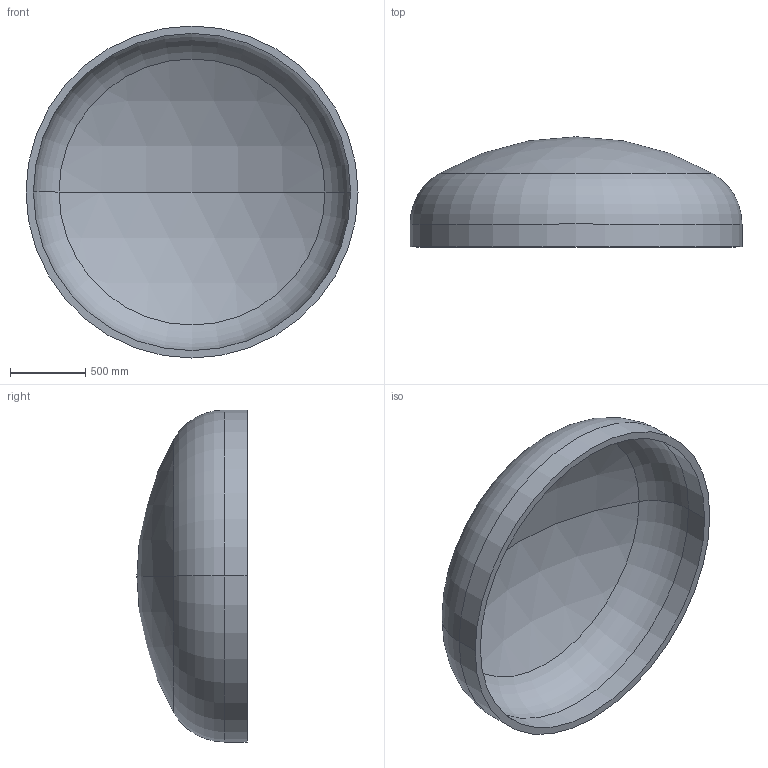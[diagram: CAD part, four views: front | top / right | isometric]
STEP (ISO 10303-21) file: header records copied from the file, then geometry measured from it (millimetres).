
FILE_DESCRIPTION (( 'STEP AP203' ), '1' );
FILE_NAME ('DIN 28013 Korbbogenform_-_Boden DIN 28013 - 2200 x 150 - I - s=49.step', '2016-07-01T14:40:07', ( '' ), ( '' ), 'SwSTEP 2.0', 'SolidWorks 2013', '' );
FILE_SCHEMA (( 'CONFIG_CONTROL_DESIGN' ));
Length unit declared in the file: millimetre
Products named in the file (1): DIN 28013 Korbbogenform_-_Boden DIN 28013 - 2200 x 150 - I - s=49
Bounding box: 2200 x 729.82 x 2200 mm (x, y, z)
Volume: 300376661.7 mm3; surface area: 12596417.5 mm2
Topology: 1 solids, 1 shells, 13 faces, 24 edges, 14 vertices
Faces by surface type: torus 4, cylinder 4, sphere 4, plane 1
Entity records: 407 total; most frequent: DIRECTION 72, CARTESIAN_POINT 52, ORIENTED_EDGE 48, AXIS2_PLACEMENT_3D 34, EDGE_CURVE 24, CIRCLE 20, VERTEX_POINT 14, EDGE_LOOP 14
